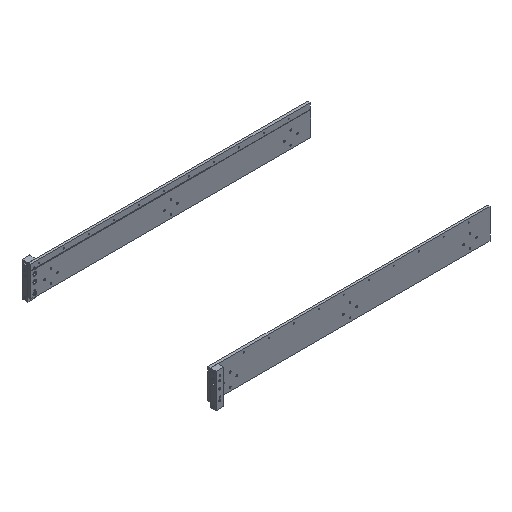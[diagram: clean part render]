
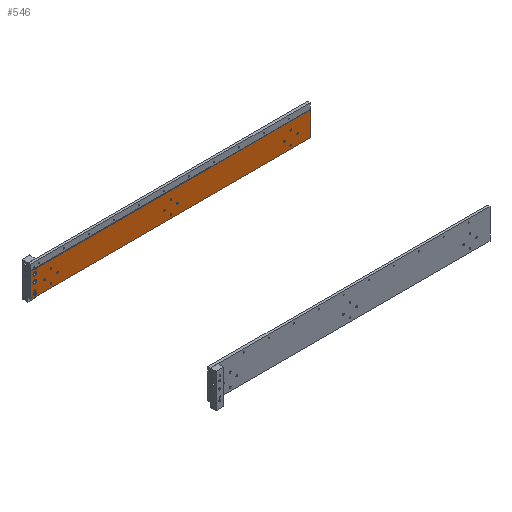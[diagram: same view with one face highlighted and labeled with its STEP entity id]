
A CAD part, isometric view. The second image highlights one B-rep face of the part: STEP entity #546.
In plain terms, the highlighted planar face has unit normal (0, -1, 0).
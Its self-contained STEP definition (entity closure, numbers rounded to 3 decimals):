
#546=ADVANCED_FACE('',(#1342,#1343,#1344,#1345,#1346,#1347,#1348,#1349,
#1350,#1351,#1352,#1353,#1354,#1355,#1356,#1357,#1358),#725,.T.);
#725=PLANE('',#4171);
#888=LINE('',#6034,#1064);
#896=LINE('',#6107,#1072);
#898=LINE('',#6119,#1074);
#899=LINE('',#6121,#1075);
#900=LINE('',#6122,#1076);
#1064=VECTOR('',#4961,1.);
#1072=VECTOR('',#5029,1.);
#1074=VECTOR('',#5041,1.);
#1075=VECTOR('',#5042,1.);
#1076=VECTOR('',#5043,1.);
#1342=FACE_BOUND('',#1852,.T.);
#1343=FACE_BOUND('',#1853,.T.);
#1344=FACE_BOUND('',#1854,.T.);
#1345=FACE_BOUND('',#1855,.T.);
#1346=FACE_BOUND('',#1856,.T.);
#1347=FACE_BOUND('',#1857,.T.);
#1348=FACE_BOUND('',#1858,.T.);
#1349=FACE_BOUND('',#1859,.T.);
#1350=FACE_BOUND('',#1860,.T.);
#1351=FACE_BOUND('',#1861,.T.);
#1352=FACE_BOUND('',#1862,.T.);
#1353=FACE_BOUND('',#1863,.T.);
#1354=FACE_BOUND('',#1864,.T.);
#1355=FACE_BOUND('',#1865,.T.);
#1356=FACE_BOUND('',#1866,.T.);
#1357=FACE_BOUND('',#1867,.T.);
#1358=FACE_BOUND('',#1868,.T.);
#1852=EDGE_LOOP('',(#2599));
#1853=EDGE_LOOP('',(#2600));
#1854=EDGE_LOOP('',(#2601));
#1855=EDGE_LOOP('',(#2602,#2603,#2604,#2605,#2606,#2607));
#1856=EDGE_LOOP('',(#2608));
#1857=EDGE_LOOP('',(#2609));
#1858=EDGE_LOOP('',(#2610));
#1859=EDGE_LOOP('',(#2611));
#1860=EDGE_LOOP('',(#2612));
#1861=EDGE_LOOP('',(#2613));
#1862=EDGE_LOOP('',(#2614));
#1863=EDGE_LOOP('',(#2615));
#1864=EDGE_LOOP('',(#2616));
#1865=EDGE_LOOP('',(#2617));
#1866=EDGE_LOOP('',(#2618));
#1867=EDGE_LOOP('',(#2619));
#1868=EDGE_LOOP('',(#2620));
#2599=ORIENTED_EDGE('',*,*,#3523,.T.);
#2600=ORIENTED_EDGE('',*,*,#3524,.T.);
#2601=ORIENTED_EDGE('',*,*,#3525,.T.);
#2602=ORIENTED_EDGE('',*,*,#3526,.F.);
#2603=ORIENTED_EDGE('',*,*,#3527,.T.);
#2604=ORIENTED_EDGE('',*,*,#3528,.T.);
#2605=ORIENTED_EDGE('',*,*,#3521,.F.);
#2606=ORIENTED_EDGE('',*,*,#3529,.F.);
#2607=ORIENTED_EDGE('',*,*,#3485,.T.);
#2608=ORIENTED_EDGE('',*,*,#3530,.F.);
#2609=ORIENTED_EDGE('',*,*,#3531,.T.);
#2610=ORIENTED_EDGE('',*,*,#3532,.T.);
#2611=ORIENTED_EDGE('',*,*,#3533,.T.);
#2612=ORIENTED_EDGE('',*,*,#3534,.T.);
#2613=ORIENTED_EDGE('',*,*,#3535,.T.);
#2614=ORIENTED_EDGE('',*,*,#3536,.T.);
#2615=ORIENTED_EDGE('',*,*,#3537,.T.);
#2616=ORIENTED_EDGE('',*,*,#3538,.T.);
#2617=ORIENTED_EDGE('',*,*,#3539,.T.);
#2618=ORIENTED_EDGE('',*,*,#3540,.T.);
#2619=ORIENTED_EDGE('',*,*,#3541,.T.);
#2620=ORIENTED_EDGE('',*,*,#3542,.T.);
#3094=VERTEX_POINT('',#6032);
#3096=VERTEX_POINT('',#6035);
#3130=VERTEX_POINT('',#6106);
#3131=VERTEX_POINT('',#6108);
#3132=VERTEX_POINT('',#6112);
#3133=VERTEX_POINT('',#6114);
#3134=VERTEX_POINT('',#6116);
#3135=VERTEX_POINT('',#6118);
#3136=VERTEX_POINT('',#6120);
#3137=VERTEX_POINT('',#6124);
#3138=VERTEX_POINT('',#6126);
#3139=VERTEX_POINT('',#6128);
#3140=VERTEX_POINT('',#6130);
#3141=VERTEX_POINT('',#6132);
#3142=VERTEX_POINT('',#6134);
#3143=VERTEX_POINT('',#6136);
#3144=VERTEX_POINT('',#6138);
#3145=VERTEX_POINT('',#6140);
#3146=VERTEX_POINT('',#6142);
#3147=VERTEX_POINT('',#6144);
#3148=VERTEX_POINT('',#6146);
#3149=VERTEX_POINT('',#6148);
#3485=EDGE_CURVE('',#3096,#3094,#888,.T.);
#3521=EDGE_CURVE('',#3130,#3131,#896,.T.);
#3523=EDGE_CURVE('',#3132,#3132,#3788,.T.);
#3524=EDGE_CURVE('',#3133,#3133,#3789,.T.);
#3525=EDGE_CURVE('',#3134,#3134,#3790,.T.);
#3526=EDGE_CURVE('',#3135,#3094,#3791,.T.);
#3527=EDGE_CURVE('',#3135,#3136,#898,.T.);
#3528=EDGE_CURVE('',#3136,#3131,#899,.T.);
#3529=EDGE_CURVE('',#3096,#3130,#900,.T.);
#3530=EDGE_CURVE('',#3137,#3137,#3792,.T.);
#3531=EDGE_CURVE('',#3138,#3138,#3793,.T.);
#3532=EDGE_CURVE('',#3139,#3139,#3794,.T.);
#3533=EDGE_CURVE('',#3140,#3140,#3795,.T.);
#3534=EDGE_CURVE('',#3141,#3141,#3796,.T.);
#3535=EDGE_CURVE('',#3142,#3142,#3797,.T.);
#3536=EDGE_CURVE('',#3143,#3143,#3798,.T.);
#3537=EDGE_CURVE('',#3144,#3144,#3799,.T.);
#3538=EDGE_CURVE('',#3145,#3145,#3800,.T.);
#3539=EDGE_CURVE('',#3146,#3146,#3801,.T.);
#3540=EDGE_CURVE('',#3147,#3147,#3802,.T.);
#3541=EDGE_CURVE('',#3148,#3148,#3803,.T.);
#3542=EDGE_CURVE('',#3149,#3149,#3804,.T.);
#3788=CIRCLE('',#4154,9.);
#3789=CIRCLE('',#4155,9.);
#3790=CIRCLE('',#4156,9.);
#3791=CIRCLE('',#4157,4.);
#3792=CIRCLE('',#4158,4.);
#3793=CIRCLE('',#4159,4.);
#3794=CIRCLE('',#4160,4.);
#3795=CIRCLE('',#4161,4.25);
#3796=CIRCLE('',#4162,4.25);
#3797=CIRCLE('',#4163,4.);
#3798=CIRCLE('',#4164,4.);
#3799=CIRCLE('',#4165,4.25);
#3800=CIRCLE('',#4166,4.25);
#3801=CIRCLE('',#4167,4.);
#3802=CIRCLE('',#4168,4.);
#3803=CIRCLE('',#4169,4.25);
#3804=CIRCLE('',#4170,4.25);
#4154=AXIS2_PLACEMENT_3D('',#6111,#5033,#5034);
#4155=AXIS2_PLACEMENT_3D('',#6113,#5035,#5036);
#4156=AXIS2_PLACEMENT_3D('',#6115,#5037,#5038);
#4157=AXIS2_PLACEMENT_3D('',#6117,#5039,#5040);
#4158=AXIS2_PLACEMENT_3D('',#6123,#5044,#5045);
#4159=AXIS2_PLACEMENT_3D('',#6125,#5046,#5047);
#4160=AXIS2_PLACEMENT_3D('',#6127,#5048,#5049);
#4161=AXIS2_PLACEMENT_3D('',#6129,#5050,#5051);
#4162=AXIS2_PLACEMENT_3D('',#6131,#5052,#5053);
#4163=AXIS2_PLACEMENT_3D('',#6133,#5054,#5055);
#4164=AXIS2_PLACEMENT_3D('',#6135,#5056,#5057);
#4165=AXIS2_PLACEMENT_3D('',#6137,#5058,#5059);
#4166=AXIS2_PLACEMENT_3D('',#6139,#5060,#5061);
#4167=AXIS2_PLACEMENT_3D('',#6141,#5062,#5063);
#4168=AXIS2_PLACEMENT_3D('',#6143,#5064,#5065);
#4169=AXIS2_PLACEMENT_3D('',#6145,#5066,#5067);
#4170=AXIS2_PLACEMENT_3D('',#6147,#5068,#5069);
#4171=AXIS2_PLACEMENT_3D('',#6149,#5070,#5071);
#4961=DIRECTION('',(-1.,0.,0.));
#5029=DIRECTION('',(-1.,0.,0.));
#5033=DIRECTION('',(0.,1.,0.));
#5034=DIRECTION('',(0.,0.,-1.));
#5035=DIRECTION('',(0.,1.,0.));
#5036=DIRECTION('',(0.,0.,-1.));
#5037=DIRECTION('',(0.,1.,0.));
#5038=DIRECTION('',(0.,0.,-1.));
#5039=DIRECTION('',(0.,-1.,0.));
#5040=DIRECTION('',(0.,0.,1.));
#5041=DIRECTION('',(-1.,0.,0.));
#5042=DIRECTION('',(0.,0.,-1.));
#5043=DIRECTION('',(0.,0.,-1.));
#5044=DIRECTION('',(0.,-1.,0.));
#5045=DIRECTION('',(0.,0.,1.));
#5046=DIRECTION('',(0.,1.,0.));
#5047=DIRECTION('',(0.,0.,-1.));
#5048=DIRECTION('',(0.,1.,0.));
#5049=DIRECTION('',(0.,0.,-1.));
#5050=DIRECTION('',(0.,1.,0.));
#5051=DIRECTION('',(0.,0.,-1.));
#5052=DIRECTION('',(0.,1.,0.));
#5053=DIRECTION('',(0.,0.,-1.));
#5054=DIRECTION('',(0.,1.,0.));
#5055=DIRECTION('',(0.,0.,-1.));
#5056=DIRECTION('',(0.,1.,0.));
#5057=DIRECTION('',(0.,0.,-1.));
#5058=DIRECTION('',(0.,1.,0.));
#5059=DIRECTION('',(0.,0.,-1.));
#5060=DIRECTION('',(0.,1.,0.));
#5061=DIRECTION('',(0.,0.,-1.));
#5062=DIRECTION('',(0.,1.,0.));
#5063=DIRECTION('',(0.,0.,-1.));
#5064=DIRECTION('',(0.,1.,0.));
#5065=DIRECTION('',(0.,0.,-1.));
#5066=DIRECTION('',(0.,1.,0.));
#5067=DIRECTION('',(0.,0.,-1.));
#5068=DIRECTION('',(0.,1.,0.));
#5069=DIRECTION('',(0.,0.,-1.));
#5070=DIRECTION('',(0.,-1.,0.));
#5071=DIRECTION('',(0.,0.,1.));
#6032=CARTESIAN_POINT('',(21.646,441.,-29.));
#6034=CARTESIAN_POINT('',(0.,441.,-29.));
#6035=CARTESIAN_POINT('',(1400.,441.,-29.));
#6106=CARTESIAN_POINT('',(1400.,441.,-150.));
#6107=CARTESIAN_POINT('',(0.,441.,-150.));
#6108=CARTESIAN_POINT('',(0.,441.,-150.));
#6111=CARTESIAN_POINT('',(19.,441.,-135.));
#6112=CARTESIAN_POINT('',(19.,441.,-144.));
#6113=CARTESIAN_POINT('',(19.,441.,-85.));
#6114=CARTESIAN_POINT('',(19.,441.,-94.));
#6115=CARTESIAN_POINT('',(19.,441.,-50.));
#6116=CARTESIAN_POINT('',(19.,441.,-59.));
#6117=CARTESIAN_POINT('',(19.,441.,-26.));
#6118=CARTESIAN_POINT('',(16.354,441.,-29.));
#6119=CARTESIAN_POINT('',(0.,441.,-29.));
#6120=CARTESIAN_POINT('',(0.,441.,-29.));
#6121=CARTESIAN_POINT('',(0.,441.,-150.));
#6122=CARTESIAN_POINT('',(1400.,441.,-150.));
#6123=CARTESIAN_POINT('',(19.,441.,-120.));
#6124=CARTESIAN_POINT('',(19.,441.,-116.));
#6125=CARTESIAN_POINT('',(132.75,441.,-100.));
#6126=CARTESIAN_POINT('',(132.75,441.,-104.));
#6127=CARTESIAN_POINT('',(67.25,441.,-100.));
#6128=CARTESIAN_POINT('',(67.25,441.,-104.));
#6129=CARTESIAN_POINT('',(100.,441.,-132.75));
#6130=CARTESIAN_POINT('',(100.,441.,-137.));
#6131=CARTESIAN_POINT('',(100.,441.,-67.25));
#6132=CARTESIAN_POINT('',(100.,441.,-71.5));
#6133=CARTESIAN_POINT('',(732.75,441.,-100.));
#6134=CARTESIAN_POINT('',(732.75,441.,-104.));
#6135=CARTESIAN_POINT('',(667.25,441.,-100.));
#6136=CARTESIAN_POINT('',(667.25,441.,-104.));
#6137=CARTESIAN_POINT('',(700.,441.,-132.75));
#6138=CARTESIAN_POINT('',(700.,441.,-137.));
#6139=CARTESIAN_POINT('',(700.,441.,-67.25));
#6140=CARTESIAN_POINT('',(700.,441.,-71.5));
#6141=CARTESIAN_POINT('',(1332.75,441.,-100.));
#6142=CARTESIAN_POINT('',(1332.75,441.,-104.));
#6143=CARTESIAN_POINT('',(1267.25,441.,-100.));
#6144=CARTESIAN_POINT('',(1267.25,441.,-104.));
#6145=CARTESIAN_POINT('',(1300.,441.,-132.75));
#6146=CARTESIAN_POINT('',(1300.,441.,-137.));
#6147=CARTESIAN_POINT('',(1300.,441.,-67.25));
#6148=CARTESIAN_POINT('',(1300.,441.,-71.5));
#6149=CARTESIAN_POINT('',(0.,441.,-150.));
